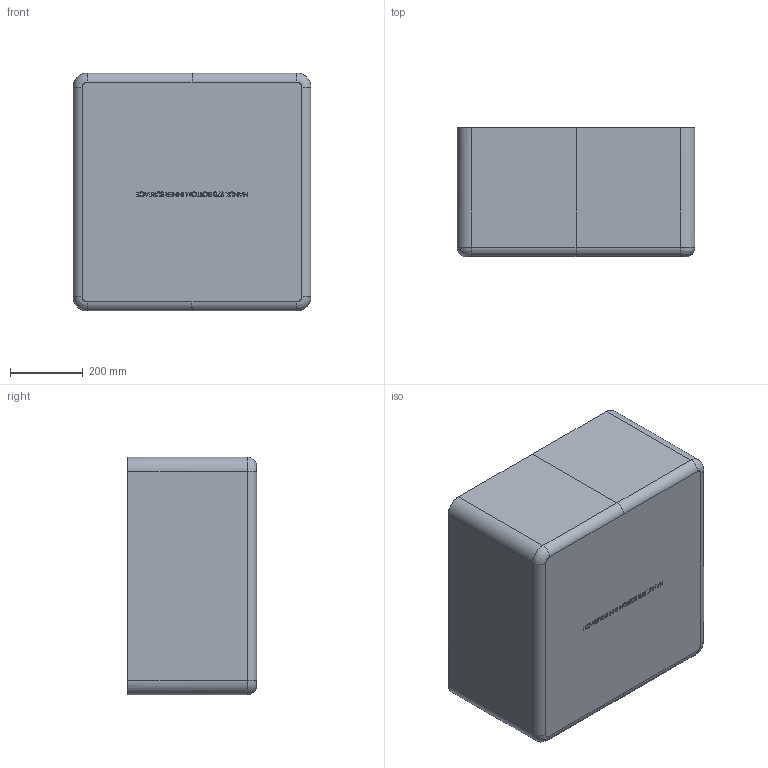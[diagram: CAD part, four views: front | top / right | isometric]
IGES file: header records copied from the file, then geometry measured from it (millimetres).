
Start section: SolidWorks IGES file using analytic representation for surfaces
Global section: file name: Z:\Share\NANUK\Solidworks\3D\Cases\970\4 - 3D FILES\4 - INNER SURFACES\970_Btm_INNER_SURFACE_IGES.IGS; native system: SolidWorks 2018; preprocessor: SolidWorks 2018; author: scharria; date: 200218.160144; units: inch
Bounding box: 653.53 x 354.86 x 653.53 mm (x, y, z)
Surface area: 2506052.7 mm2 (no closed solid volume)
Topology: 0 solids, 0 shells, 2254 faces, 22483 edges, 22297 vertices
Faces by surface type: bspline 1479, revolution 775
